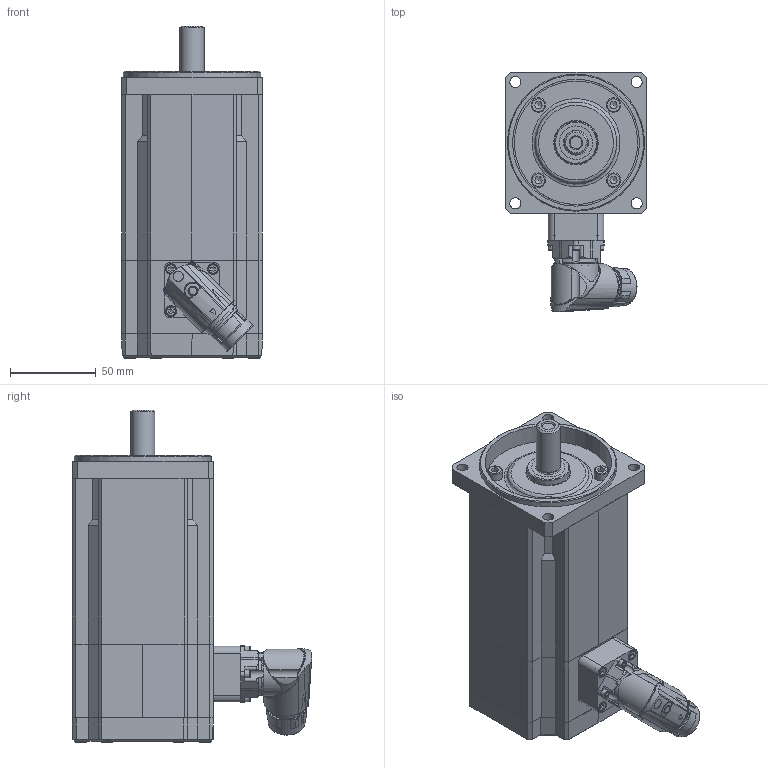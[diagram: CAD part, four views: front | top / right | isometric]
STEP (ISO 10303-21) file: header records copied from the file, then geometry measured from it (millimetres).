
FILE_DESCRIPTION(/* description */ (''),/* implementation_level */ '2;1');
FILE_NAME(/* name */ 'D:\InventorWorkspace2017\CAD\Projekte_EDEM\HLR\Zubehörteile\SMH826003814SIZ64S62.stp',/* time_stamp */ '2019-02-13T12:32:26+01:00',/* author */ ('544672'),/* organization */ (''),/* preprocessor_version */ 'ST-DEVELOPER v16.5',/* originating_system */ 'Autodesk Inventor 2017',/* authorisation */ '');
FILE_SCHEMA (('AUTOMOTIVE_DESIGN { 1 0 10303 214 3 1 1 }'));
Length unit declared in the file: millimetre
Products named in the file (1): SMH826003814SIZ64S62
Bounding box: 82.45 x 139.76 x 193.6 mm (x, y, z)
Volume: 999523.4 mm3; surface area: 83229.8 mm2
Topology: 1 solids, 1 shells, 836 faces, 2107 edges, 1342 vertices
Faces by surface type: plane 475, cylinder 166, bspline 99, cone 68, torus 28
Full cylindrical faces by diameter (mm): 1 x4, 1.18 x4, 1.75 x1, 1.945 x1, 2 x4, 2.8 x4, 3 x4, 4.5 x5, 5.5 x4, 5.8 x1, 5.9 x1, 6.5 x8, 6.8 x1, 7 x4, 7.5 x4, 8.5 x4, 14 x1, 19.9 x1, 21.145 x1, 21.6 x1, 21.8 x1, 21.9 x1, 24.4 x1, 25 x1, 72 x1, 74 x1, 80 x1
Entity records: 27574 total; most frequent: CARTESIAN_POINT 8020, ORIENTED_EDGE 3888, DIRECTION 3616, EDGE_CURVE 1944, VERTEX_POINT 1294, AXIS2_PLACEMENT_3D 1262, LINE 1092, VECTOR 1092
